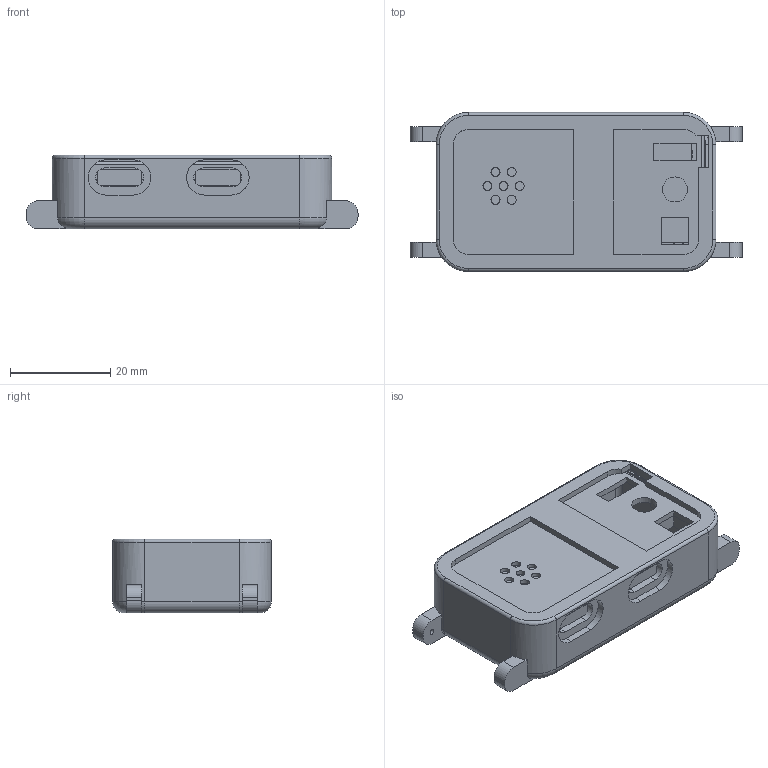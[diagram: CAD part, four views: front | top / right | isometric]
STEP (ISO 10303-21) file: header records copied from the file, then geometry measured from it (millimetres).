
FILE_DESCRIPTION(('Open CASCADE Model'),'2;1');
FILE_NAME('Open CASCADE Shape Model','2026-11-03T19:16:52',('Author'),( 'Open CASCADE'),'Open CASCADE STEP processor 7.9','Open CASCADE 7.9' ,'Unknown');
FILE_SCHEMA(('AUTOMOTIVE_DESIGN { 1 0 10303 214 1 1 1 1 }'));
Length unit declared in the file: millimetre
Products named in the file (8): korgan_pod; case; lid; sleeve; battery; mpu6050; esp32c3; charger
Assembly tree (7 placements, depth 2):
  korgan_pod
    case
    lid
    sleeve
    battery
    mpu6050
    esp32c3
    charger
Bounding box: 66.2 x 31.7 x 14.7 mm (x, y, z)
Volume: 15648.3 mm3; surface area: 21741.8 mm2
Topology: 7 solids, 7 shells, 290 faces, 743 edges, 482 vertices
Faces by surface type: plane 173, cylinder 89, torus 28
Full cylindrical faces by diameter (mm): 1.1 x4, 1.8 x7, 3 x2, 5 x1, 5.6 x2, 12.4 x1
Entity records: 19948 total; most frequent: CARTESIAN_POINT 5135, DIRECTION 2634, ORIENTED_EDGE 1486, PCURVE 1486, DEFINITIONAL_REPRESENTATION 1486, LINE 1485, VECTOR 1485, EDGE_CURVE 743
